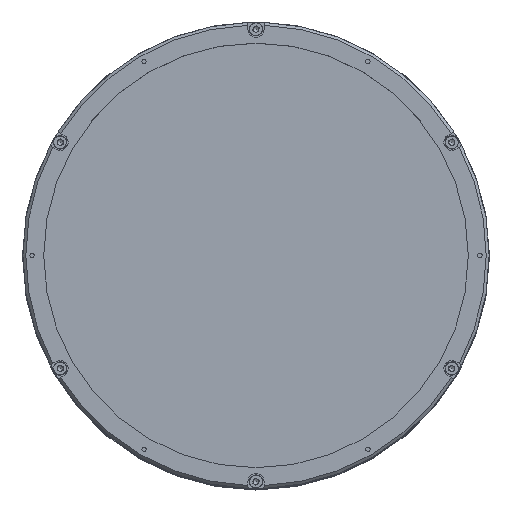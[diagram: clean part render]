
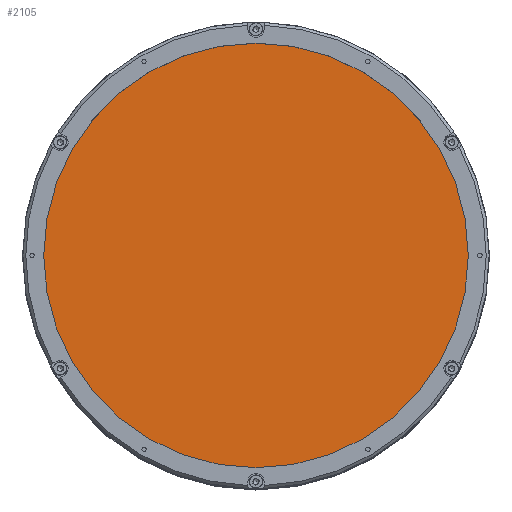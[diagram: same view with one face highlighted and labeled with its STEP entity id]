
A CAD part, top view. The second image highlights one B-rep face of the part: STEP entity #2105.
In plain terms, the highlighted planar face has unit normal (0, 0, 1).
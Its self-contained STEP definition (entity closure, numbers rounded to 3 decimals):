
#1281 = FACE_OUTER_BOUND ( 'NONE', #11461, .T. ) ;
#1959 = DIRECTION ( 'NONE',  ( 0., 0., -1. ) ) ;
#2105 = ADVANCED_FACE ( 'NONE', ( #1281 ), #12999, .F. ) ;
#2726 = CARTESIAN_POINT ( 'NONE',  ( 0., 0., 324.71 ) ) ;
#2877 = CIRCLE ( 'NONE', #5160, 72.75 ) ;
#5160 = AXIS2_PLACEMENT_3D ( 'NONE', #5256, #5241, #5205 ) ;
#5205 = DIRECTION ( 'NONE',  ( -1., 0., 0. ) ) ;
#5241 = DIRECTION ( 'NONE',  ( 0., 0., -1. ) ) ;
#5249 = CARTESIAN_POINT ( 'NONE',  ( -72.75, 0., 324.71 ) ) ;
#5256 = CARTESIAN_POINT ( 'NONE',  ( 0., 0., 324.71 ) ) ;
#8202 = AXIS2_PLACEMENT_3D ( 'NONE', #2726, #1959, #13842 ) ;
#9362 = EDGE_CURVE ( 'NONE', #12653, #12653, #2877, .T. ) ;
#11309 = ORIENTED_EDGE ( 'NONE', *, *, #9362, .F. ) ;
#11461 = EDGE_LOOP ( 'NONE', ( #11309 ) ) ;
#12653 = VERTEX_POINT ( 'NONE', #5249 ) ;
#12999 = PLANE ( 'NONE',  #8202 ) ;
#13842 = DIRECTION ( 'NONE',  ( -1., 0., 0. ) ) ;
